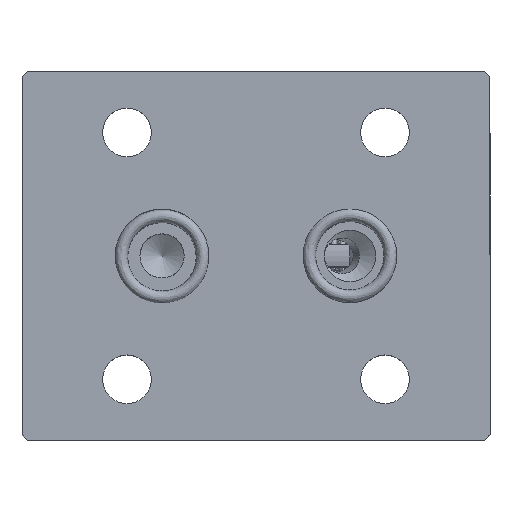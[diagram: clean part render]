
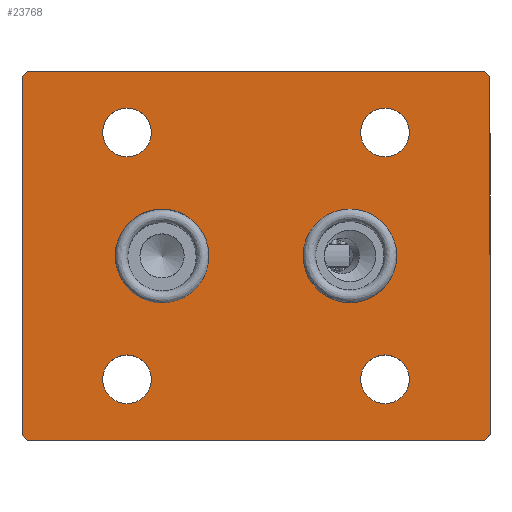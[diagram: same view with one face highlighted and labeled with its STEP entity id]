
A CAD part, top view. The second image highlights one B-rep face of the part: STEP entity #23768.
In plain terms, the highlighted planar face has unit normal (0, 0, 1).
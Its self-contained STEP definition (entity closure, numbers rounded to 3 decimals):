
#198 = VERTEX_POINT ( 'NONE', #31650 ) ;
#747 = CARTESIAN_POINT ( 'NONE',  ( -31.75, -24.3, 10. ) ) ;
#848 = ORIENTED_EDGE ( 'NONE', *, *, #12429, .T. ) ;
#864 = AXIS2_PLACEMENT_3D ( 'NONE', #31273, #12555, #28030 ) ;
#918 = CARTESIAN_POINT ( 'NONE',  ( -31.05, -25., 10. ) ) ;
#1133 = FACE_BOUND ( 'NONE', #27479, .T. ) ;
#1169 = DIRECTION ( 'NONE',  ( -1., 0., 0. ) ) ;
#1695 = AXIS2_PLACEMENT_3D ( 'NONE', #3705, #32408, #16930 ) ;
#1854 = EDGE_CURVE ( 'NONE', #16683, #16683, #30497, .T. ) ;
#2262 = AXIS2_PLACEMENT_3D ( 'NONE', #9887, #33100, #10058 ) ;
#2870 = CARTESIAN_POINT ( 'NONE',  ( -17.5, -16.75, 10. ) ) ;
#3086 = CARTESIAN_POINT ( 'NONE',  ( -31.75, 25., 10. ) ) ;
#3198 = VERTEX_POINT ( 'NONE', #4825 ) ;
#3207 = AXIS2_PLACEMENT_3D ( 'NONE', #19419, #29901, #31969 ) ;
#3267 = EDGE_CURVE ( 'NONE', #15335, #198, #17715, .T. ) ;
#3429 = LINE ( 'NONE', #3086, #13958 ) ;
#3705 = CARTESIAN_POINT ( 'NONE',  ( -31.75, -25., 10. ) ) ;
#4447 = LINE ( 'NONE', #14590, #19854 ) ;
#4665 = CIRCLE ( 'NONE', #16733, 3.3 ) ;
#4825 = CARTESIAN_POINT ( 'NONE',  ( 31.75, 24.3, 10. ) ) ;
#5050 = EDGE_CURVE ( 'NONE', #3198, #15335, #10697, .T. ) ;
#5923 = ORIENTED_EDGE ( 'NONE', *, *, #16403, .T. ) ;
#5981 = EDGE_CURVE ( 'NONE', #12146, #29919, #7166, .T. ) ;
#6823 = CARTESIAN_POINT ( 'NONE',  ( -0.35, -56.4, 10. ) ) ;
#7056 = AXIS2_PLACEMENT_3D ( 'NONE', #11167, #13579, #32483 ) ;
#7166 = LINE ( 'NONE', #6823, #31479 ) ;
#7801 = EDGE_CURVE ( 'NONE', #26226, #11051, #3429, .T. ) ;
#8098 = EDGE_LOOP ( 'NONE', ( #11789, #12987, #848, #31138, #20429, #5923, #21883, #25828 ) ) ;
#8353 = DIRECTION ( 'NONE',  ( -1., 0., 0. ) ) ;
#9175 = EDGE_CURVE ( 'NONE', #18750, #18750, #4665, .T. ) ;
#9433 = LINE ( 'NONE', #30725, #27853 ) ;
#9887 = CARTESIAN_POINT ( 'NONE',  ( -12.75, 0., 10. ) ) ;
#9969 = CARTESIAN_POINT ( 'NONE',  ( -6.4, 0., 10. ) ) ;
#10051 = ORIENTED_EDGE ( 'NONE', *, *, #14371, .T. ) ;
#10058 = DIRECTION ( 'NONE',  ( 1., 0., 0. ) ) ;
#10697 = LINE ( 'NONE', #19294, #11132 ) ;
#11045 = ORIENTED_EDGE ( 'NONE', *, *, #9175, .T. ) ;
#11051 = VERTEX_POINT ( 'NONE', #747 ) ;
#11132 = VECTOR ( 'NONE', #14645, 1000. ) ;
#11167 = CARTESIAN_POINT ( 'NONE',  ( 17.5, -16.75, 10. ) ) ;
#11779 = FACE_BOUND ( 'NONE', #26910, .T. ) ;
#11789 = ORIENTED_EDGE ( 'NONE', *, *, #20510, .T. ) ;
#11840 = DIRECTION ( 'NONE',  ( -0.707, -0.707, 0. ) ) ;
#11868 = VERTEX_POINT ( 'NONE', #30760 ) ;
#12146 = VERTEX_POINT ( 'NONE', #14650 ) ;
#12429 = EDGE_CURVE ( 'NONE', #29919, #3198, #23885, .T. ) ;
#12555 = DIRECTION ( 'NONE',  ( 0., 0., -1. ) ) ;
#12987 = ORIENTED_EDGE ( 'NONE', *, *, #5981, .T. ) ;
#13579 = DIRECTION ( 'NONE',  ( 0., 0., -1. ) ) ;
#13750 = DIRECTION ( 'NONE',  ( 0., 0., -1. ) ) ;
#13958 = VECTOR ( 'NONE', #21135, 1000. ) ;
#14109 = CARTESIAN_POINT ( 'NONE',  ( -20.8, 16.75, 10. ) ) ;
#14360 = FACE_BOUND ( 'NONE', #30949, .T. ) ;
#14371 = EDGE_CURVE ( 'NONE', #14618, #14618, #32731, .T. ) ;
#14590 = CARTESIAN_POINT ( 'NONE',  ( -31.4, -24.65, 10. ) ) ;
#14618 = VERTEX_POINT ( 'NONE', #17197 ) ;
#14645 = DIRECTION ( 'NONE',  ( -0.707, 0.707, 0. ) ) ;
#14650 = CARTESIAN_POINT ( 'NONE',  ( 31.05, -25., 10. ) ) ;
#15335 = VERTEX_POINT ( 'NONE', #16256 ) ;
#16256 = CARTESIAN_POINT ( 'NONE',  ( 31.05, 25., 10. ) ) ;
#16403 = EDGE_CURVE ( 'NONE', #198, #26226, #9433, .T. ) ;
#16507 = CARTESIAN_POINT ( 'NONE',  ( 31.75, 25., 10. ) ) ;
#16683 = VERTEX_POINT ( 'NONE', #16852 ) ;
#16733 = AXIS2_PLACEMENT_3D ( 'NONE', #21488, #13750, #16837 ) ;
#16837 = DIRECTION ( 'NONE',  ( -1., 0., 0. ) ) ;
#16852 = CARTESIAN_POINT ( 'NONE',  ( 14.2, 16.75, 10. ) ) ;
#16930 = DIRECTION ( 'NONE',  ( 1., 0., 0. ) ) ;
#16964 = VECTOR ( 'NONE', #25852, 1000. ) ;
#17019 = CARTESIAN_POINT ( 'NONE',  ( 14.2, -16.75, 10. ) ) ;
#17104 = FACE_BOUND ( 'NONE', #32296, .T. ) ;
#17197 = CARTESIAN_POINT ( 'NONE',  ( -20.8, -16.75, 10. ) ) ;
#17304 = ORIENTED_EDGE ( 'NONE', *, *, #19172, .T. ) ;
#17715 = LINE ( 'NONE', #28209, #19874 ) ;
#17954 = ORIENTED_EDGE ( 'NONE', *, *, #1854, .T. ) ;
#18750 = VERTEX_POINT ( 'NONE', #14109 ) ;
#19172 = EDGE_CURVE ( 'NONE', #22181, #22181, #21870, .T. ) ;
#19217 = EDGE_CURVE ( 'NONE', #11868, #11868, #30098, .T. ) ;
#19294 = CARTESIAN_POINT ( 'NONE',  ( 24.65, 31.4, 10. ) ) ;
#19419 = CARTESIAN_POINT ( 'NONE',  ( 12.75, 0., 10. ) ) ;
#19854 = VECTOR ( 'NONE', #25580, 1000. ) ;
#19874 = VECTOR ( 'NONE', #1169, 1000. ) ;
#20318 = ORIENTED_EDGE ( 'NONE', *, *, #19217, .F. ) ;
#20429 = ORIENTED_EDGE ( 'NONE', *, *, #3267, .T. ) ;
#20510 = EDGE_CURVE ( 'NONE', #21797, #12146, #23091, .T. ) ;
#21135 = DIRECTION ( 'NONE',  ( 0., -1., 0. ) ) ;
#21151 = DIRECTION ( 'NONE',  ( 0., 1., 0. ) ) ;
#21488 = CARTESIAN_POINT ( 'NONE',  ( -17.5, 16.75, 10. ) ) ;
#21587 = DIRECTION ( 'NONE',  ( 0., 0., -1. ) ) ;
#21797 = VERTEX_POINT ( 'NONE', #918 ) ;
#21870 = CIRCLE ( 'NONE', #7056, 3.3 ) ;
#21883 = ORIENTED_EDGE ( 'NONE', *, *, #7801, .T. ) ;
#22181 = VERTEX_POINT ( 'NONE', #17019 ) ;
#23091 = LINE ( 'NONE', #30999, #16964 ) ;
#23695 = EDGE_LOOP ( 'NONE', ( #17304 ) ) ;
#23768 = ADVANCED_FACE ( 'NONE', ( #27249, #11779, #17104, #14360, #27594, #1133, #29659 ), #29490, .T. ) ;
#23885 = LINE ( 'NONE', #16507, #31646 ) ;
#24045 = CARTESIAN_POINT ( 'NONE',  ( 31.75, -24.3, 10. ) ) ;
#24854 = EDGE_CURVE ( 'NONE', #25774, #25774, #31880, .T. ) ;
#25040 = AXIS2_PLACEMENT_3D ( 'NONE', #2870, #21587, #8353 ) ;
#25325 = CARTESIAN_POINT ( 'NONE',  ( -31.75, 24.3, 10. ) ) ;
#25580 = DIRECTION ( 'NONE',  ( 0.707, -0.707, 0. ) ) ;
#25774 = VERTEX_POINT ( 'NONE', #9969 ) ;
#25828 = ORIENTED_EDGE ( 'NONE', *, *, #26745, .T. ) ;
#25852 = DIRECTION ( 'NONE',  ( 1., 0., 0. ) ) ;
#26226 = VERTEX_POINT ( 'NONE', #25325 ) ;
#26745 = EDGE_CURVE ( 'NONE', #11051, #21797, #4447, .T. ) ;
#26910 = EDGE_LOOP ( 'NONE', ( #33591 ) ) ;
#27249 = FACE_BOUND ( 'NONE', #33230, .T. ) ;
#27479 = EDGE_LOOP ( 'NONE', ( #10051 ) ) ;
#27594 = FACE_OUTER_BOUND ( 'NONE', #8098, .T. ) ;
#27853 = VECTOR ( 'NONE', #11840, 1000. ) ;
#28030 = DIRECTION ( 'NONE',  ( -1., 0., 0. ) ) ;
#28209 = CARTESIAN_POINT ( 'NONE',  ( -31.75, 25., 10. ) ) ;
#29490 = PLANE ( 'NONE',  #1695 ) ;
#29659 = FACE_BOUND ( 'NONE', #23695, .T. ) ;
#29901 = DIRECTION ( 'NONE',  ( 0., 0., 1. ) ) ;
#29919 = VERTEX_POINT ( 'NONE', #24045 ) ;
#30098 = CIRCLE ( 'NONE', #3207, 6.35 ) ;
#30497 = CIRCLE ( 'NONE', #864, 3.3 ) ;
#30549 = DIRECTION ( 'NONE',  ( 0.707, 0.707, 0. ) ) ;
#30725 = CARTESIAN_POINT ( 'NONE',  ( -56.4, -0.35, 10. ) ) ;
#30760 = CARTESIAN_POINT ( 'NONE',  ( 19.1, 0., 10. ) ) ;
#30949 = EDGE_LOOP ( 'NONE', ( #11045 ) ) ;
#30999 = CARTESIAN_POINT ( 'NONE',  ( -31.75, -25., 10. ) ) ;
#31138 = ORIENTED_EDGE ( 'NONE', *, *, #5050, .T. ) ;
#31273 = CARTESIAN_POINT ( 'NONE',  ( 17.5, 16.75, 10. ) ) ;
#31479 = VECTOR ( 'NONE', #30549, 1000. ) ;
#31646 = VECTOR ( 'NONE', #21151, 1000. ) ;
#31650 = CARTESIAN_POINT ( 'NONE',  ( -31.05, 25., 10. ) ) ;
#31880 = CIRCLE ( 'NONE', #2262, 6.35 ) ;
#31969 = DIRECTION ( 'NONE',  ( 1., 0., 0. ) ) ;
#32296 = EDGE_LOOP ( 'NONE', ( #17954 ) ) ;
#32408 = DIRECTION ( 'NONE',  ( 0., 0., 1. ) ) ;
#32483 = DIRECTION ( 'NONE',  ( -1., 0., 0. ) ) ;
#32731 = CIRCLE ( 'NONE', #25040, 3.3 ) ;
#33100 = DIRECTION ( 'NONE',  ( 0., 0., 1. ) ) ;
#33230 = EDGE_LOOP ( 'NONE', ( #20318 ) ) ;
#33591 = ORIENTED_EDGE ( 'NONE', *, *, #24854, .F. ) ;
